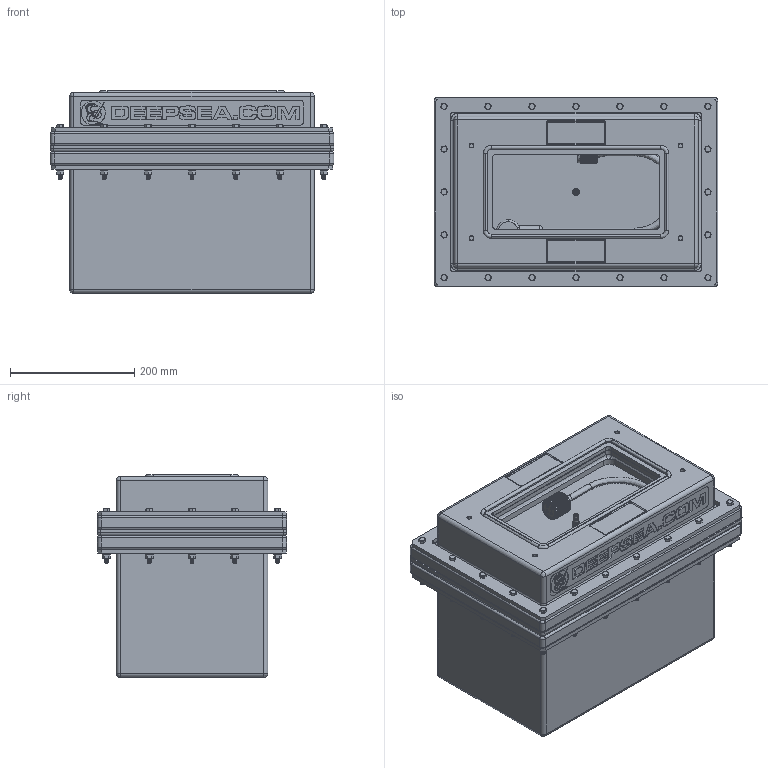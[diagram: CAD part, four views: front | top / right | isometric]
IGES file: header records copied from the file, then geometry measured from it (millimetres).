
Start section: SolidWorks IGES file using analytic representation for surfaces
Global section: file name: W:\730_Batteries\001_Sea_Battery\sales\Models\730-001-001_Final_Battery_Assy_RevA_20090713a.IGS; native system: SolidWorks 2009; preprocessor: SolidWorks 2009; author: jon_simmons; date: 090713.083153; units: inch
Bounding box: 457.2 x 304.8 x 326.9 mm (x, y, z)
Surface area: 1124517.3 mm2 (no closed solid volume)
Topology: 0 solids, 0 shells, 1951 faces, 24174 edges, 24161 vertices
Faces by surface type: bspline 1010, revolution 941
